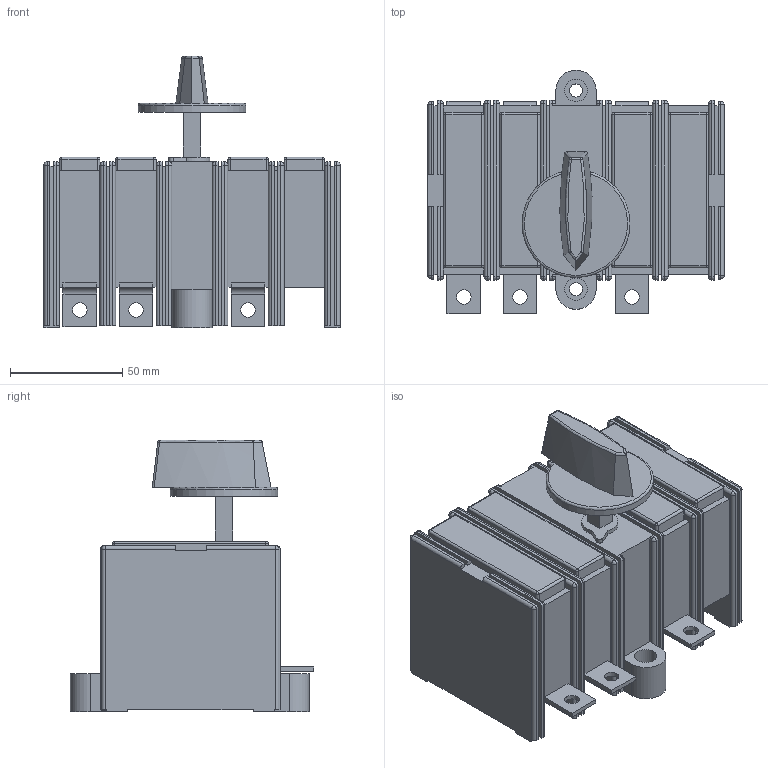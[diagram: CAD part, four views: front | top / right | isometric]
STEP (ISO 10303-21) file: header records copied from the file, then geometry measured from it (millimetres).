
FILE_DESCRIPTION(/* description */ (''),/* implementation_level */ '2;1');
FILE_NAME(/* name */ 'RA100 P3 A-R.stp',/* time_stamp */ '2021-08-17T12:15:39+02:00',/* author */ (''),/* organization */ (''),/* preprocessor_version */ 'ST-DEVELOPER v18.1',/* originating_system */ 'SIEMENS PLM Software NX 1965',/* authorisation */ '');
FILE_SCHEMA (('AUTOMOTIVE_DESIGN { 1 0 10303 214 3 1 1 1 }'));
Length unit declared in the file: millimetre
Products named in the file (1): RA100 P3 A-R_stp
Bounding box: 132 x 108.51 x 121 mm (x, y, z)
Volume: 676279.4 mm3; surface area: 82775.7 mm2
Topology: 1 solids, 1 shells, 385 faces, 1027 edges, 607 vertices
Faces by surface type: plane 214, cylinder 122, sphere 41, bspline 7, torus 1
Full cylindrical faces by diameter (mm): 5.8 x2, 6.5 x6, 10 x2, 48 x1
Entity records: 11565 total; most frequent: CARTESIAN_POINT 2182, DIRECTION 1947, ORIENTED_EDGE 1938, EDGE_CURVE 969, LINE 703, VECTOR 703, AXIS2_PLACEMENT_3D 622, VERTEX_POINT 603
